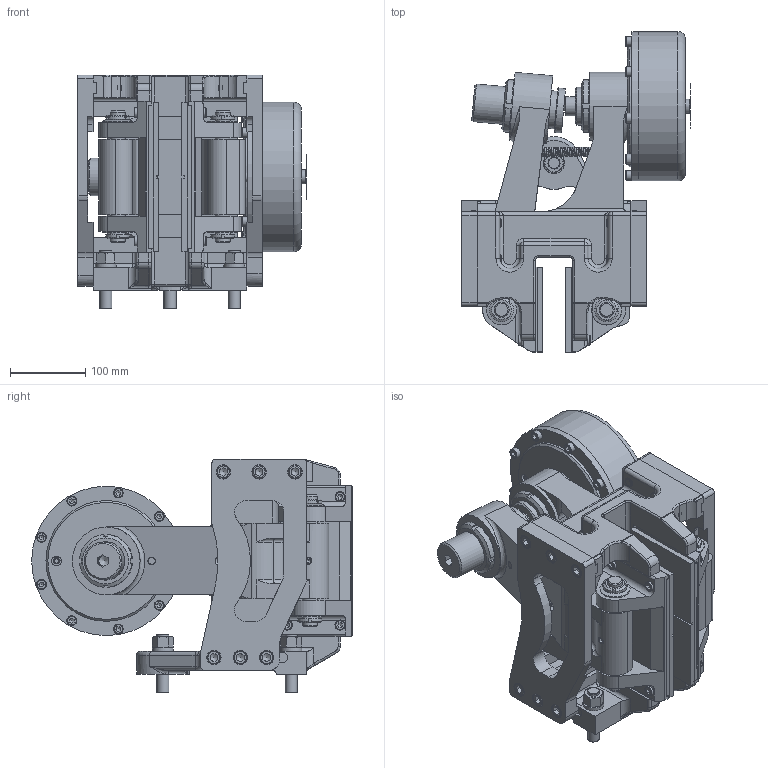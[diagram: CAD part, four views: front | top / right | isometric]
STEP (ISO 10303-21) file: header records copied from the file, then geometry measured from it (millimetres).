
FILE_DESCRIPTION(/* description */ ('','CAx-IF Rec.Pracs.---Representation and Presentation of Product Manufacturing Information (PMI)---4.0---2014-10-13'),/* implementation_level */ '2;1');
FILE_NAME(/* name */ 'X:\INVENTOR\DISEGNI\19_Pinze\STEP x Sito\PNEUM-POSITIVE\19_16_064_05 PPT064_30.stp',/* time_stamp */ '2018-10-25T15:48:39+02:00',/* author */ ('stefano'),/* organization */ (''),/* preprocessor_version */ 'ST-DEVELOPER v17',/* originating_system */ 'Autodesk Inventor 2018',/* authorisation */ '');
FILE_SCHEMA (('AP242_MANAGED_MODEL_BASED_3D_ENGINEERING_MIM_LF { 1 0 10303 442 1 1 4 }'));
Length unit declared in the file: millimetre
Products named in the file (1): 19_16_064_05 PPT064_30_Substitute_2
Bounding box: 302.25 x 425 x 310 mm (x, y, z)
Volume: 9254862.3 mm3; surface area: 1080515.5 mm2
Topology: 1 solids, 1 shells, 1697 faces, 4599 edges, 2966 vertices
Faces by surface type: plane 837, cylinder 476, cone 170, torus 163, bspline 31, sphere 20
Full cylindrical faces by diameter (mm): 1.8 x2, 3 x1, 4.134 x2, 5.188 x6, 6 x1, 6.3 x6, 7.4 x1, 7.5 x2, 8 x9, 8.376 x1, 8.5 x8, 8.917 x2, 9 x1, 9.188 x1, 10 x2, 10.106 x2, 10.5 x4, 12 x14, 12.5 x12, 13 x19, 13.5 x8, 14 x1, 16 x6, 16.5 x4, 17 x3, 18 x13, 18.631 x1, 19 x12, 20 x13, 22 x6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
Entity records: 62831 total; most frequent: CARTESIAN_POINT 18407, DIRECTION 9115, ORIENTED_EDGE 9068, EDGE_CURVE 4534, AXIS2_PLACEMENT_3D 3492, VERTEX_POINT 2966, LINE 2131, VECTOR 2131
